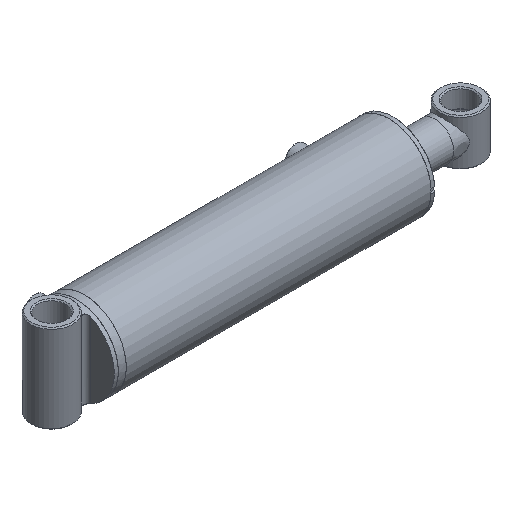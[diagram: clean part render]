
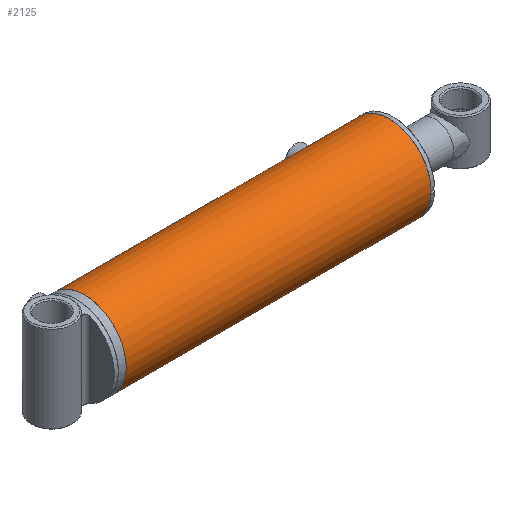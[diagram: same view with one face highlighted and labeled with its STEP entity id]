
A CAD part, isometric view. The second image highlights one B-rep face of the part: STEP entity #2125.
In plain terms, the highlighted cylindrical face has radius 57.15 mm (diameter 114.3 mm), a full revolution.
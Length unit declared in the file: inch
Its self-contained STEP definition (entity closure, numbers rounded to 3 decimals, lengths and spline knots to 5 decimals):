
#378=CIRCLE('',#2306,2.25);
#382=CIRCLE('',#2314,2.25);
#511=FACE_BOUND('',#824,.T.);
#512=FACE_BOUND('',#825,.T.);
#513=FACE_BOUND('',#826,.T.);
#638=FACE_OUTER_BOUND('',#823,.T.);
#823=EDGE_LOOP('',(#1641));
#824=EDGE_LOOP('',(#1642));
#825=EDGE_LOOP('',(#1643));
#826=EDGE_LOOP('',(#1644));
#1076=B_SPLINE_CURVE_WITH_KNOTS('',3,(#4764,#4765,#4766,#4767,#4768,#4769,
#4770,#4771,#4772,#4773,#4774,#4775,#4776,#4777,#4778,#4779,#4780,#4781,
#4782,#4783,#4784,#4785,#4786,#4787,#4788,#4789,#4790,#4791,#4792,#4793,
#4794,#4795,#4796,#4797),.UNSPECIFIED.,.T.,.F.,(4,2,2,2,2,2,2,2,2,2,2,2,
2,2,2,2,4),(0.,0.18845,0.37689,0.56534,0.75379,
0.94223,1.13068,1.31913,1.50757,1.69602,
1.88447,2.07291,2.26136,2.44981,2.63825,
2.8267,3.01515),.UNSPECIFIED.);
#1078=B_SPLINE_CURVE_WITH_KNOTS('',3,(#4962,#4963,#4964,#4965,#4966,#4967,
#4968,#4969,#4970,#4971,#4972,#4973,#4974,#4975,#4976,#4977,#4978,#4979,
#4980,#4981,#4982,#4983,#4984,#4985,#4986,#4987,#4988,#4989,#4990,#4991,
#4992,#4993,#4994,#4995),.UNSPECIFIED.,.T.,.F.,(4,2,2,2,2,2,2,2,2,2,2,2,
2,2,2,2,4),(0.,0.18845,0.37689,0.56534,0.75379,
0.94223,1.13068,1.31913,1.50757,1.69602,
1.88447,2.07291,2.26136,2.44981,2.63825,
2.8267,3.01515),.UNSPECIFIED.);
#1126=VERTEX_POINT('',#4763);
#1128=VERTEX_POINT('',#4961);
#1132=VERTEX_POINT('',#5005);
#1136=VERTEX_POINT('',#5017);
#1334=EDGE_CURVE('',#1126,#1126,#1076,.T.);
#1337=EDGE_CURVE('',#1128,#1128,#1078,.T.);
#1341=EDGE_CURVE('',#1132,#1132,#378,.T.);
#1345=EDGE_CURVE('',#1136,#1136,#382,.T.);
#1641=ORIENTED_EDGE('',*,*,#1345,.T.);
#1642=ORIENTED_EDGE('',*,*,#1334,.T.);
#1643=ORIENTED_EDGE('',*,*,#1337,.T.);
#1644=ORIENTED_EDGE('',*,*,#1341,.F.);
#2058=CYLINDRICAL_SURFACE('',#2316,2.25);
#2125=ADVANCED_FACE('',(#638,#511,#512,#513),#2058,.T.);
#2306=AXIS2_PLACEMENT_3D('',#5006,#2654,#2655);
#2314=AXIS2_PLACEMENT_3D('',#5018,#2670,#2671);
#2316=AXIS2_PLACEMENT_3D('',#5020,#2674,#2675);
#2654=DIRECTION('center_axis',(1.,0.,0.));
#2655=DIRECTION('ref_axis',(0.,-1.,0.));
#2670=DIRECTION('center_axis',(1.,0.,0.));
#2671=DIRECTION('ref_axis',(0.,-1.,0.));
#2674=DIRECTION('center_axis',(1.,0.,0.));
#2675=DIRECTION('ref_axis',(0.,-1.,0.));
#4763=CARTESIAN_POINT('',(6.31496,2.24137,-0.19685));
#4764=CARTESIAN_POINT('Ctrl Pts',(6.31496,2.24137,-0.19685));
#4765=CARTESIAN_POINT('Ctrl Pts',(6.33969,2.24137,-0.19685));
#4766=CARTESIAN_POINT('Ctrl Pts',(6.36606,2.24182,-0.19191));
#4767=CARTESIAN_POINT('Ctrl Pts',(6.41456,2.24345,-0.17181));
#4768=CARTESIAN_POINT('Ctrl Pts',(6.43668,2.24461,-0.15666));
#4769=CARTESIAN_POINT('Ctrl Pts',(6.47163,2.24677,-0.12172));
#4770=CARTESIAN_POINT('Ctrl Pts',(6.48677,2.24793,-0.0996));
#4771=CARTESIAN_POINT('Ctrl Pts',(6.50687,2.24955,-0.0511));
#4772=CARTESIAN_POINT('Ctrl Pts',(6.51181,2.25,-0.02473));
#4773=CARTESIAN_POINT('Ctrl Pts',(6.51181,2.25,0.02473));
#4774=CARTESIAN_POINT('Ctrl Pts',(6.50687,2.24955,0.0511));
#4775=CARTESIAN_POINT('Ctrl Pts',(6.48677,2.24793,0.0996));
#4776=CARTESIAN_POINT('Ctrl Pts',(6.47163,2.24677,0.12172));
#4777=CARTESIAN_POINT('Ctrl Pts',(6.43668,2.24461,0.15666));
#4778=CARTESIAN_POINT('Ctrl Pts',(6.41456,2.24345,0.17181));
#4779=CARTESIAN_POINT('Ctrl Pts',(6.36606,2.24182,0.19191));
#4780=CARTESIAN_POINT('Ctrl Pts',(6.33969,2.24137,0.19685));
#4781=CARTESIAN_POINT('Ctrl Pts',(6.29023,2.24137,0.19685));
#4782=CARTESIAN_POINT('Ctrl Pts',(6.26386,2.24182,0.19191));
#4783=CARTESIAN_POINT('Ctrl Pts',(6.21536,2.24345,0.17181));
#4784=CARTESIAN_POINT('Ctrl Pts',(6.19324,2.24461,0.15666));
#4785=CARTESIAN_POINT('Ctrl Pts',(6.1583,2.24677,0.12172));
#4786=CARTESIAN_POINT('Ctrl Pts',(6.14315,2.24793,0.0996));
#4787=CARTESIAN_POINT('Ctrl Pts',(6.12306,2.24955,0.0511));
#4788=CARTESIAN_POINT('Ctrl Pts',(6.11811,2.25,0.02473));
#4789=CARTESIAN_POINT('Ctrl Pts',(6.11811,2.25,-0.02473));
#4790=CARTESIAN_POINT('Ctrl Pts',(6.12306,2.24955,-0.0511));
#4791=CARTESIAN_POINT('Ctrl Pts',(6.14315,2.24793,-0.0996));
#4792=CARTESIAN_POINT('Ctrl Pts',(6.1583,2.24677,-0.12172));
#4793=CARTESIAN_POINT('Ctrl Pts',(6.19324,2.24461,-0.15666));
#4794=CARTESIAN_POINT('Ctrl Pts',(6.21536,2.24345,-0.17181));
#4795=CARTESIAN_POINT('Ctrl Pts',(6.26386,2.24182,-0.19191));
#4796=CARTESIAN_POINT('Ctrl Pts',(6.29023,2.24137,-0.19685));
#4797=CARTESIAN_POINT('Ctrl Pts',(6.31496,2.24137,-0.19685));
#4961=CARTESIAN_POINT('',(-7.73228,2.24137,-0.19685));
#4962=CARTESIAN_POINT('Ctrl Pts',(-7.73228,2.24137,-0.19685));
#4963=CARTESIAN_POINT('Ctrl Pts',(-7.70755,2.24137,-0.19685));
#4964=CARTESIAN_POINT('Ctrl Pts',(-7.68118,2.24182,-0.19191));
#4965=CARTESIAN_POINT('Ctrl Pts',(-7.63269,2.24345,-0.17181));
#4966=CARTESIAN_POINT('Ctrl Pts',(-7.61056,2.24461,-0.15666));
#4967=CARTESIAN_POINT('Ctrl Pts',(-7.57562,2.24677,-0.12172));
#4968=CARTESIAN_POINT('Ctrl Pts',(-7.56047,2.24793,-0.0996));
#4969=CARTESIAN_POINT('Ctrl Pts',(-7.54038,2.24955,-0.0511));
#4970=CARTESIAN_POINT('Ctrl Pts',(-7.53543,2.25,-0.02473));
#4971=CARTESIAN_POINT('Ctrl Pts',(-7.53543,2.25,0.02473));
#4972=CARTESIAN_POINT('Ctrl Pts',(-7.54038,2.24955,0.0511));
#4973=CARTESIAN_POINT('Ctrl Pts',(-7.56047,2.24793,0.0996));
#4974=CARTESIAN_POINT('Ctrl Pts',(-7.57562,2.24677,0.12172));
#4975=CARTESIAN_POINT('Ctrl Pts',(-7.61056,2.24461,0.15666));
#4976=CARTESIAN_POINT('Ctrl Pts',(-7.63269,2.24345,0.17181));
#4977=CARTESIAN_POINT('Ctrl Pts',(-7.68118,2.24182,0.19191));
#4978=CARTESIAN_POINT('Ctrl Pts',(-7.70755,2.24137,0.19685));
#4979=CARTESIAN_POINT('Ctrl Pts',(-7.75701,2.24137,0.19685));
#4980=CARTESIAN_POINT('Ctrl Pts',(-7.78338,2.24182,0.19191));
#4981=CARTESIAN_POINT('Ctrl Pts',(-7.83188,2.24345,0.17181));
#4982=CARTESIAN_POINT('Ctrl Pts',(-7.85401,2.24461,0.15666));
#4983=CARTESIAN_POINT('Ctrl Pts',(-7.88895,2.24677,0.12172));
#4984=CARTESIAN_POINT('Ctrl Pts',(-7.9041,2.24793,0.0996));
#4985=CARTESIAN_POINT('Ctrl Pts',(-7.92419,2.24955,0.0511));
#4986=CARTESIAN_POINT('Ctrl Pts',(-7.92913,2.25,0.02473));
#4987=CARTESIAN_POINT('Ctrl Pts',(-7.92913,2.25,-0.02473));
#4988=CARTESIAN_POINT('Ctrl Pts',(-7.92419,2.24955,-0.0511));
#4989=CARTESIAN_POINT('Ctrl Pts',(-7.9041,2.24793,-0.0996));
#4990=CARTESIAN_POINT('Ctrl Pts',(-7.88895,2.24677,-0.12172));
#4991=CARTESIAN_POINT('Ctrl Pts',(-7.85401,2.24461,-0.15666));
#4992=CARTESIAN_POINT('Ctrl Pts',(-7.83188,2.24345,-0.17181));
#4993=CARTESIAN_POINT('Ctrl Pts',(-7.78338,2.24182,-0.19191));
#4994=CARTESIAN_POINT('Ctrl Pts',(-7.75701,2.24137,-0.19685));
#4995=CARTESIAN_POINT('Ctrl Pts',(-7.73228,2.24137,-0.19685));
#5005=CARTESIAN_POINT('',(8.32283,2.25,0.));
#5006=CARTESIAN_POINT('Origin',(8.32283,0.,0.));
#5017=CARTESIAN_POINT('',(-8.08071,2.25,0.));
#5018=CARTESIAN_POINT('Origin',(-8.08071,0.,0.));
#5020=CARTESIAN_POINT('Origin',(0.,0.,0.));
